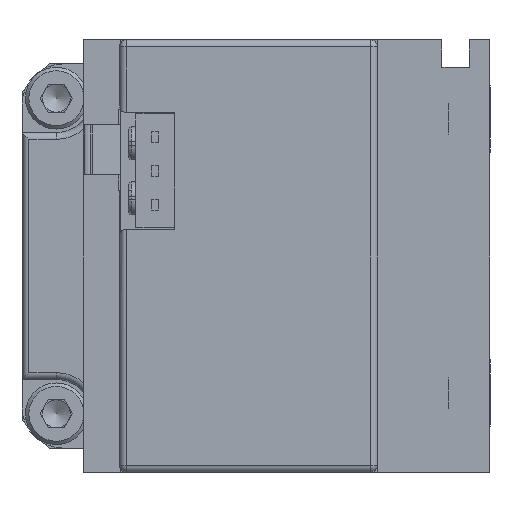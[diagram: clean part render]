
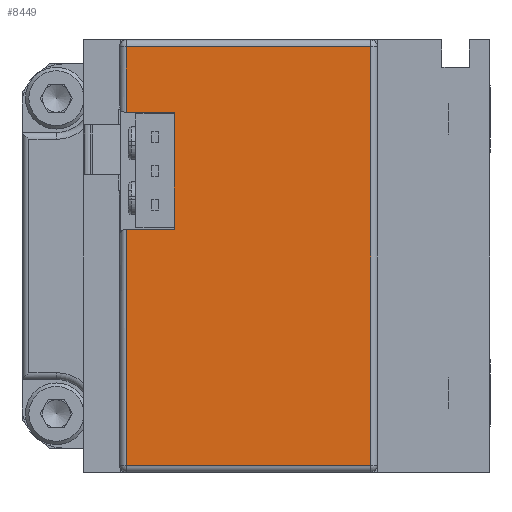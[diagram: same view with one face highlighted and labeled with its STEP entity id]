
A CAD part, left-side view. The second image highlights one B-rep face of the part: STEP entity #8449.
In plain terms, the highlighted planar face has unit normal (-1, 0, 0).
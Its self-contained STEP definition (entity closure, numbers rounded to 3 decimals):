
#1129 = CARTESIAN_POINT ( 'NONE',  ( -247.321, 2.008, -7.29 ) ) ;
#1143 = DIRECTION ( 'NONE',  ( 0., -1., 0. ) ) ;
#1159 = CARTESIAN_POINT ( 'NONE',  ( -247.321, 0.842, 6.51 ) ) ;
#1178 = DIRECTION ( 'NONE',  ( 0., 0., -1. ) ) ;
#1207 = CARTESIAN_POINT ( 'NONE',  ( -247.321, -17.458, 6.01 ) ) ;
#1208 = DIRECTION ( 'NONE',  ( 0., 1., 0. ) ) ;
#1224 = CARTESIAN_POINT ( 'NONE',  ( -247.321, -16.958, 6.51 ) ) ;
#1228 = DIRECTION ( 'NONE',  ( 0., 0., 1. ) ) ;
#1249 = CARTESIAN_POINT ( 'NONE',  ( -247.321, -17.458, -24.49 ) ) ;
#1250 = DIRECTION ( 'NONE',  ( 0., -1., 0. ) ) ;
#1251 = DIRECTION ( 'NONE',  ( 0., 0., -1. ) ) ;
#1256 = CARTESIAN_POINT ( 'NONE',  ( -247.321, 0.842, 6.51 ) ) ;
#1292 = CARTESIAN_POINT ( 'NONE',  ( -247.321, -2.658, -7.29 ) ) ;
#1303 = DIRECTION ( 'NONE',  ( 0., 0., 1. ) ) ;
#1315 = CARTESIAN_POINT ( 'NONE',  ( -247.321, -2.658, 1.21 ) ) ;
#1351 = DIRECTION ( 'NONE',  ( 0., 1., 0. ) ) ;
#5800 = CARTESIAN_POINT ( 'NONE',  ( -247.321, -17.458, 6.51 ) ) ;
#5804 = PLANE ( 'NONE',  #6764 ) ;
#5806 = DIRECTION ( 'NONE',  ( 1., 0., 0. ) ) ;
#5807 = DIRECTION ( 'NONE',  ( 0., 0., -1. ) ) ;
#6764 = AXIS2_PLACEMENT_3D ( 'NONE', #5800, #5806, #5807 ) ;
#7288 = VECTOR ( 'NONE', #1143, 1000. ) ;
#7296 = LINE ( 'NONE', #1129, #7288 ) ;
#8088 = FACE_OUTER_BOUND ( 'NONE', #14399, .T. ) ;
#8449 = ADVANCED_FACE ( 'NONE', ( #8088 ), #5804, .F. ) ;
#12438 = EDGE_CURVE ( 'NONE', #19792, #19776, #7296, .T. ) ;
#12452 = EDGE_CURVE ( 'NONE', #19808, #19778, #23896, .T. ) ;
#12464 = EDGE_CURVE ( 'NONE', #19802, #19808, #23860, .T. ) ;
#12472 = EDGE_CURVE ( 'NONE', #19798, #19802, #23854, .T. ) ;
#12481 = EDGE_CURVE ( 'NONE', #19780, #19798, #23834, .T. ) ;
#12484 = EDGE_CURVE ( 'NONE', #19792, #19780, #23830, .T. ) ;
#12500 = EDGE_CURVE ( 'NONE', #19776, #19777, #23810, .T. ) ;
#12506 = EDGE_CURVE ( 'NONE', #19777, #19778, #23801, .T. ) ;
#13179 = ORIENTED_EDGE ( 'NONE', *, *, #12500, .F. ) ;
#13180 = ORIENTED_EDGE ( 'NONE', *, *, #12506, .F. ) ;
#13181 = ORIENTED_EDGE ( 'NONE', *, *, #12452, .T. ) ;
#13182 = ORIENTED_EDGE ( 'NONE', *, *, #12464, .T. ) ;
#13183 = ORIENTED_EDGE ( 'NONE', *, *, #12472, .T. ) ;
#13184 = ORIENTED_EDGE ( 'NONE', *, *, #12481, .T. ) ;
#13185 = ORIENTED_EDGE ( 'NONE', *, *, #12484, .T. ) ;
#13186 = ORIENTED_EDGE ( 'NONE', *, *, #12438, .F. ) ;
#14399 = EDGE_LOOP ( 'NONE', ( #13186, #13185, #13184, #13183, #13182, #13181, #13180, #13179 ) ) ;
#19776 = VERTEX_POINT ( 'NONE', #22681 ) ;
#19777 = VERTEX_POINT ( 'NONE', #22614 ) ;
#19778 = VERTEX_POINT ( 'NONE', #22682 ) ;
#19780 = VERTEX_POINT ( 'NONE', #22684 ) ;
#19792 = VERTEX_POINT ( 'NONE', #22693 ) ;
#19798 = VERTEX_POINT ( 'NONE', #22699 ) ;
#19802 = VERTEX_POINT ( 'NONE', #22703 ) ;
#19808 = VERTEX_POINT ( 'NONE', #22709 ) ;
#22614 = CARTESIAN_POINT ( 'NONE',  ( -247.321, -2.658, 1.21 ) ) ;
#22681 = CARTESIAN_POINT ( 'NONE',  ( -247.321, -2.658, -7.29 ) ) ;
#22682 = CARTESIAN_POINT ( 'NONE',  ( -247.321, 0.842, 1.21 ) ) ;
#22684 = CARTESIAN_POINT ( 'NONE',  ( -247.321, 0.842, -24.49 ) ) ;
#22693 = CARTESIAN_POINT ( 'NONE',  ( -247.321, 0.842, -7.29 ) ) ;
#22699 = CARTESIAN_POINT ( 'NONE',  ( -247.321, -16.958, -24.49 ) ) ;
#22703 = CARTESIAN_POINT ( 'NONE',  ( -247.321, -16.958, 6.01 ) ) ;
#22709 = CARTESIAN_POINT ( 'NONE',  ( -247.321, 0.842, 6.01 ) ) ;
#23799 = VECTOR ( 'NONE', #1351, 1000. ) ;
#23801 = LINE ( 'NONE', #1315, #23799 ) ;
#23809 = VECTOR ( 'NONE', #1303, 1000. ) ;
#23810 = LINE ( 'NONE', #1292, #23809 ) ;
#23827 = VECTOR ( 'NONE', #1251, 1000. ) ;
#23830 = LINE ( 'NONE', #1256, #23827 ) ;
#23831 = VECTOR ( 'NONE', #1250, 1000. ) ;
#23834 = LINE ( 'NONE', #1249, #23831 ) ;
#23845 = VECTOR ( 'NONE', #1228, 1000. ) ;
#23854 = LINE ( 'NONE', #1224, #23845 ) ;
#23857 = VECTOR ( 'NONE', #1208, 1000. ) ;
#23860 = LINE ( 'NONE', #1207, #23857 ) ;
#23883 = VECTOR ( 'NONE', #1178, 1000. ) ;
#23896 = LINE ( 'NONE', #1159, #23883 ) ;
